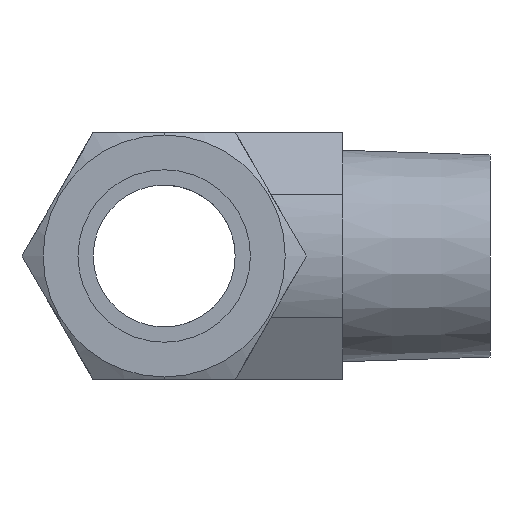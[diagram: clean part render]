
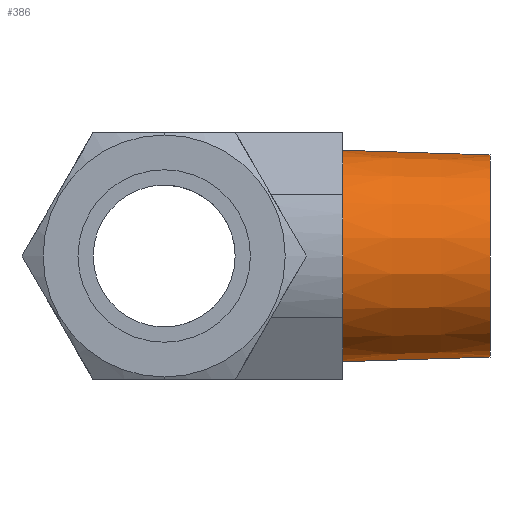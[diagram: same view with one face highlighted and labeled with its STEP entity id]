
A CAD part, left-side view. The second image highlights one B-rep face of the part: STEP entity #386.
In plain terms, the highlighted conical face has half-angle 1.8 degrees and reference radius 13.3 mm.
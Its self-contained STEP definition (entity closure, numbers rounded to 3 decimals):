
#354 = ORIENTED_EDGE ( 'NONE', *, *, #355, .F. ) ;
#355 = EDGE_CURVE ( 'NONE', #430, #436, #1333, .T. ) ;
#386 = ADVANCED_FACE ( 'NONE', ( #1379 ), #1378, .T. ) ;
#387 = EDGE_LOOP ( 'NONE', ( #388, #431, #434, #354 ) ) ;
#388 = ORIENTED_EDGE ( 'NONE', *, *, #389, .F. ) ;
#389 = EDGE_CURVE ( 'NONE', #390, #430, #1438, .T. ) ;
#390 = VERTEX_POINT ( 'NONE', #1430 ) ;
#430 = VERTEX_POINT ( 'NONE', #1481 ) ;
#431 = ORIENTED_EDGE ( 'NONE', *, *, #432, .T. ) ;
#432 = EDGE_CURVE ( 'NONE', #390, #433, #1480, .T. ) ;
#433 = VERTEX_POINT ( 'NONE', #1476 ) ;
#434 = ORIENTED_EDGE ( 'NONE', *, *, #435, .T. ) ;
#435 = EDGE_CURVE ( 'NONE', #433, #436, #1475, .T. ) ;
#436 = VERTEX_POINT ( 'NONE', #1529 ) ;
#1330 = DIRECTION ( 'NONE',  ( 0., 1., -0.031 ) ) ;
#1331 = VECTOR ( 'NONE', #1330, 1000. ) ;
#1332 = CARTESIAN_POINT ( 'NONE',  ( 0., -33.39, -13.3 ) ) ;
#1333 = LINE ( 'NONE', #1332, #1331 ) ;
#1378 = CONICAL_SURFACE ( 'NONE', #1380, 13.3, 0.031 ) ;
#1379 = FACE_OUTER_BOUND ( 'NONE', #387, .T. ) ;
#1380 = AXIS2_PLACEMENT_3D ( 'NONE', #1437, #1436, #1435 ) ;
#1430 = CARTESIAN_POINT ( 'NONE',  ( 0., -42., 13.029 ) ) ;
#1431 = DIRECTION ( 'NONE',  ( 0., 0., -1. ) ) ;
#1432 = DIRECTION ( 'NONE',  ( 0., -1., 0. ) ) ;
#1433 = CARTESIAN_POINT ( 'NONE',  ( 0., -42., 0. ) ) ;
#1434 = AXIS2_PLACEMENT_3D ( 'NONE', #1433, #1432, #1431 ) ;
#1435 = DIRECTION ( 'NONE',  ( 0., 0., -1. ) ) ;
#1436 = DIRECTION ( 'NONE',  ( 0., 1., 0. ) ) ;
#1437 = CARTESIAN_POINT ( 'NONE',  ( 0., -33.39, 0. ) ) ;
#1438 = CIRCLE ( 'NONE', #1434, 13.029 ) ;
#1471 = DIRECTION ( 'NONE',  ( 0., 0., 1. ) ) ;
#1472 = DIRECTION ( 'NONE',  ( 0., -1., 0. ) ) ;
#1473 = CARTESIAN_POINT ( 'NONE',  ( 0., -23., 0. ) ) ;
#1474 = AXIS2_PLACEMENT_3D ( 'NONE', #1473, #1472, #1471 ) ;
#1475 = CIRCLE ( 'NONE', #1474, 13.627 ) ;
#1476 = CARTESIAN_POINT ( 'NONE',  ( 0., -23., 13.627 ) ) ;
#1477 = DIRECTION ( 'NONE',  ( 0., 1., 0.031 ) ) ;
#1478 = VECTOR ( 'NONE', #1477, 1000. ) ;
#1479 = CARTESIAN_POINT ( 'NONE',  ( 0., -33.39, 13.3 ) ) ;
#1480 = LINE ( 'NONE', #1479, #1478 ) ;
#1481 = CARTESIAN_POINT ( 'NONE',  ( 0., -42., -13.029 ) ) ;
#1529 = CARTESIAN_POINT ( 'NONE',  ( 0., -23., -13.627 ) ) ;
